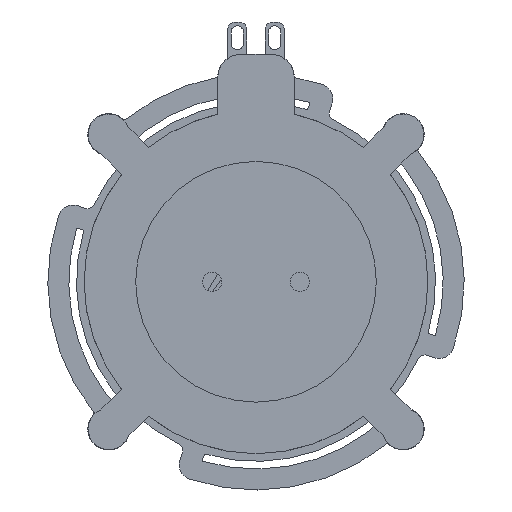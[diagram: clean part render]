
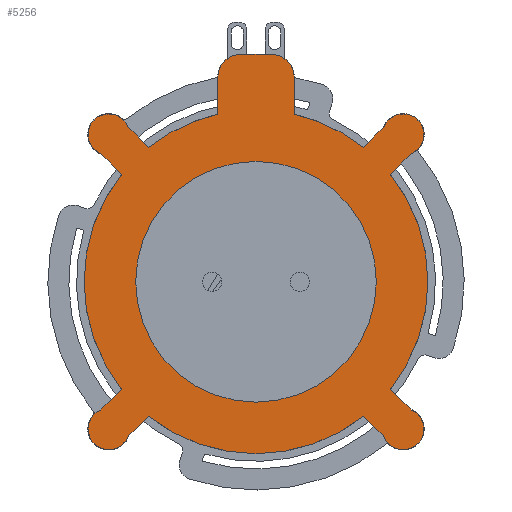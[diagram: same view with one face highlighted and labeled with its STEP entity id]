
A CAD part, front view. The second image highlights one B-rep face of the part: STEP entity #5256.
In plain terms, the highlighted planar face has unit normal (0, -1, 0).
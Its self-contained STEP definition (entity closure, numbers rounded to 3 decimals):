
#41=FACE_BOUND('',#714,.T.);
#166=PLANE('',#5676);
#426=FACE_OUTER_BOUND('',#713,.T.);
#713=EDGE_LOOP('',(#4458,#4459,#4460,#4461,#4462,#4463,#4464,#4465,#4466,
#4467,#4468,#4469,#4470,#4471,#4472,#4473,#4474,#4475,#4476,#4477,#4478,
#4479,#4480,#4481,#4482));
#714=EDGE_LOOP('',(#4483));
#873=CIRCLE('',#5488,2.7);
#878=CIRCLE('',#5498,2.7);
#889=CIRCLE('',#5523,3.);
#949=CIRCLE('',#5677,22.5);
#950=CIRCLE('',#5678,22.5);
#951=CIRCLE('',#5679,22.5);
#952=CIRCLE('',#5680,3.);
#953=CIRCLE('',#5681,22.5);
#954=CIRCLE('',#5682,2.7);
#955=CIRCLE('',#5683,2.7);
#956=CIRCLE('',#5684,22.5);
#957=CIRCLE('',#5685,22.5);
#958=CIRCLE('',#5686,2.7);
#959=CIRCLE('',#5687,2.7);
#960=CIRCLE('',#5688,15.75);
#1214=LINE('',#14122,#1638);
#1218=LINE('',#14131,#1642);
#1290=LINE('',#14415,#1714);
#1292=LINE('',#14419,#1716);
#1294=LINE('',#14425,#1718);
#1510=LINE('',#15018,#1934);
#1511=LINE('',#15022,#1935);
#1512=LINE('',#15026,#1936);
#1513=LINE('',#15032,#1937);
#1514=LINE('',#15038,#1938);
#1515=LINE('',#15043,#1939);
#1638=VECTOR('',#5982,11.815);
#1642=VECTOR('',#5988,10.68);
#1714=VECTOR('',#6274,10.68);
#1716=VECTOR('',#6278,10.68);
#1718=VECTOR('',#6282,10.68);
#1934=VECTOR('',#6870,4.);
#1935=VECTOR('',#6873,11.815);
#1936=VECTOR('',#6876,10.68);
#1937=VECTOR('',#6881,10.68);
#1938=VECTOR('',#6886,10.68);
#1939=VECTOR('',#6891,10.68);
#2148=VERTEX_POINT('',#14115);
#2151=VERTEX_POINT('',#14120);
#2152=VERTEX_POINT('',#14124);
#2155=VERTEX_POINT('',#14129);
#2256=VERTEX_POINT('',#14401);
#2257=VERTEX_POINT('',#14403);
#2260=VERTEX_POINT('',#14413);
#2261=VERTEX_POINT('',#14417);
#2263=VERTEX_POINT('',#14422);
#2264=VERTEX_POINT('',#14424);
#2291=VERTEX_POINT('',#14509);
#2454=VERTEX_POINT('',#15013);
#2455=VERTEX_POINT('',#15017);
#2456=VERTEX_POINT('',#15019);
#2457=VERTEX_POINT('',#15021);
#2458=VERTEX_POINT('',#15023);
#2459=VERTEX_POINT('',#15025);
#2460=VERTEX_POINT('',#15027);
#2461=VERTEX_POINT('',#15029);
#2462=VERTEX_POINT('',#15031);
#2463=VERTEX_POINT('',#15033);
#2464=VERTEX_POINT('',#15035);
#2465=VERTEX_POINT('',#15037);
#2466=VERTEX_POINT('',#15039);
#2467=VERTEX_POINT('',#15041);
#2468=VERTEX_POINT('',#15044);
#2743=EDGE_CURVE('',#2151,#2148,#1214,.T.);
#2747=EDGE_CURVE('',#2155,#2152,#1218,.T.);
#2879=EDGE_CURVE('',#2256,#2257,#873,.T.);
#2885=EDGE_CURVE('',#2260,#2256,#1290,.T.);
#2887=EDGE_CURVE('',#2257,#2261,#1292,.T.);
#2889=EDGE_CURVE('',#2263,#2264,#1294,.T.);
#2896=EDGE_CURVE('',#2264,#2155,#878,.T.);
#2933=EDGE_CURVE('',#2291,#2151,#889,.T.);
#3179=EDGE_CURVE('',#2152,#2454,#949,.T.);
#3180=EDGE_CURVE('',#2261,#2263,#950,.T.);
#3181=EDGE_CURVE('',#2148,#2260,#951,.T.);
#3182=EDGE_CURVE('',#2455,#2291,#1510,.T.);
#3183=EDGE_CURVE('',#2456,#2455,#952,.T.);
#3184=EDGE_CURVE('',#2457,#2456,#1511,.T.);
#3185=EDGE_CURVE('',#2458,#2457,#953,.T.);
#3186=EDGE_CURVE('',#2459,#2458,#1512,.T.);
#3187=EDGE_CURVE('',#2460,#2459,#954,.T.);
#3188=EDGE_CURVE('',#2461,#2460,#955,.T.);
#3189=EDGE_CURVE('',#2462,#2461,#1513,.T.);
#3190=EDGE_CURVE('',#2463,#2462,#956,.T.);
#3191=EDGE_CURVE('',#2464,#2463,#957,.T.);
#3192=EDGE_CURVE('',#2465,#2464,#1514,.T.);
#3193=EDGE_CURVE('',#2466,#2465,#958,.T.);
#3194=EDGE_CURVE('',#2467,#2466,#959,.T.);
#3195=EDGE_CURVE('',#2454,#2467,#1515,.T.);
#3196=EDGE_CURVE('',#2468,#2468,#960,.T.);
#4458=ORIENTED_EDGE('',*,*,#3179,.F.);
#4459=ORIENTED_EDGE('',*,*,#2747,.F.);
#4460=ORIENTED_EDGE('',*,*,#2896,.F.);
#4461=ORIENTED_EDGE('',*,*,#2889,.F.);
#4462=ORIENTED_EDGE('',*,*,#3180,.F.);
#4463=ORIENTED_EDGE('',*,*,#2887,.F.);
#4464=ORIENTED_EDGE('',*,*,#2879,.F.);
#4465=ORIENTED_EDGE('',*,*,#2885,.F.);
#4466=ORIENTED_EDGE('',*,*,#3181,.F.);
#4467=ORIENTED_EDGE('',*,*,#2743,.F.);
#4468=ORIENTED_EDGE('',*,*,#2933,.F.);
#4469=ORIENTED_EDGE('',*,*,#3182,.F.);
#4470=ORIENTED_EDGE('',*,*,#3183,.F.);
#4471=ORIENTED_EDGE('',*,*,#3184,.F.);
#4472=ORIENTED_EDGE('',*,*,#3185,.F.);
#4473=ORIENTED_EDGE('',*,*,#3186,.F.);
#4474=ORIENTED_EDGE('',*,*,#3187,.F.);
#4475=ORIENTED_EDGE('',*,*,#3188,.F.);
#4476=ORIENTED_EDGE('',*,*,#3189,.F.);
#4477=ORIENTED_EDGE('',*,*,#3190,.F.);
#4478=ORIENTED_EDGE('',*,*,#3191,.F.);
#4479=ORIENTED_EDGE('',*,*,#3192,.F.);
#4480=ORIENTED_EDGE('',*,*,#3193,.F.);
#4481=ORIENTED_EDGE('',*,*,#3194,.F.);
#4482=ORIENTED_EDGE('',*,*,#3195,.F.);
#4483=ORIENTED_EDGE('',*,*,#3196,.F.);
#5256=ADVANCED_FACE('',(#426,#41),#166,.T.);
#5488=AXIS2_PLACEMENT_3D('',#14404,#6262,#6263);
#5498=AXIS2_PLACEMENT_3D('',#14436,#6294,#6295);
#5523=AXIS2_PLACEMENT_3D('',#14511,#6370,#6371);
#5676=AXIS2_PLACEMENT_3D('',#15012,#6862,#6863);
#5677=AXIS2_PLACEMENT_3D('',#15014,#6864,#6865);
#5678=AXIS2_PLACEMENT_3D('',#15015,#6866,#6867);
#5679=AXIS2_PLACEMENT_3D('',#15016,#6868,#6869);
#5680=AXIS2_PLACEMENT_3D('',#15020,#6871,#6872);
#5681=AXIS2_PLACEMENT_3D('',#15024,#6874,#6875);
#5682=AXIS2_PLACEMENT_3D('',#15028,#6877,#6878);
#5683=AXIS2_PLACEMENT_3D('',#15030,#6879,#6880);
#5684=AXIS2_PLACEMENT_3D('',#15034,#6882,#6883);
#5685=AXIS2_PLACEMENT_3D('',#15036,#6884,#6885);
#5686=AXIS2_PLACEMENT_3D('',#15040,#6887,#6888);
#5687=AXIS2_PLACEMENT_3D('',#15042,#6889,#6890);
#5688=AXIS2_PLACEMENT_3D('',#15045,#6892,#6893);
#5982=DIRECTION('',(0.,0.,-1.));
#5988=DIRECTION('',(-0.707,0.,0.707));
#6262=DIRECTION('center_axis',(0.,1.,0.));
#6263=DIRECTION('ref_axis',(1.,0.,0.));
#6274=DIRECTION('',(0.707,0.,0.707));
#6278=DIRECTION('',(-0.707,0.,-0.707));
#6282=DIRECTION('',(0.707,0.,-0.707));
#6294=DIRECTION('center_axis',(0.,1.,0.));
#6295=DIRECTION('ref_axis',(1.,0.,0.));
#6370=DIRECTION('center_axis',(0.,1.,0.));
#6371=DIRECTION('ref_axis',(0.,0.,1.));
#6862=DIRECTION('center_axis',(0.,-1.,0.));
#6863=DIRECTION('ref_axis',(-1.,0.,0.));
#6864=DIRECTION('center_axis',(0.,1.,0.));
#6865=DIRECTION('ref_axis',(-0.624,0.,-0.781));
#6866=DIRECTION('center_axis',(0.,1.,0.));
#6867=DIRECTION('ref_axis',(0.781,0.,-0.624));
#6868=DIRECTION('center_axis',(0.,1.,0.));
#6869=DIRECTION('ref_axis',(0.624,0.,0.781));
#6870=DIRECTION('',(1.,0.,0.));
#6871=DIRECTION('center_axis',(0.,1.,0.));
#6872=DIRECTION('ref_axis',(-1.,0.,0.));
#6873=DIRECTION('',(0.,0.,1.));
#6874=DIRECTION('center_axis',(0.,1.,0.));
#6875=DIRECTION('ref_axis',(-0.222,0.,0.975));
#6876=DIRECTION('',(0.707,0.,-0.707));
#6877=DIRECTION('center_axis',(0.,1.,0.));
#6878=DIRECTION('ref_axis',(-1.,0.,0.));
#6879=DIRECTION('center_axis',(0.,1.,0.));
#6880=DIRECTION('ref_axis',(-1.,0.,0.));
#6881=DIRECTION('',(-0.707,0.,0.707));
#6882=DIRECTION('center_axis',(0.,1.,0.));
#6883=DIRECTION('ref_axis',(-0.781,0.,0.624));
#6884=DIRECTION('center_axis',(0.,1.,0.));
#6885=DIRECTION('ref_axis',(-0.781,0.,0.624));
#6886=DIRECTION('',(0.707,0.,0.707));
#6887=DIRECTION('center_axis',(0.,1.,0.));
#6888=DIRECTION('ref_axis',(-1.,0.,0.));
#6889=DIRECTION('center_axis',(0.,1.,0.));
#6890=DIRECTION('ref_axis',(-1.,0.,0.));
#6891=DIRECTION('',(-0.707,0.,-0.707));
#6892=DIRECTION('center_axis',(0.,-1.,0.));
#6893=DIRECTION('ref_axis',(1.,0.,0.));
#14115=CARTESIAN_POINT('',(5.,-17.5,21.937));
#14120=CARTESIAN_POINT('',(5.,-17.5,26.75));
#14122=CARTESIAN_POINT('',(5.,-17.5,26.75));
#14124=CARTESIAN_POINT('',(14.044,-17.5,-17.579));
#14129=CARTESIAN_POINT('',(16.78,-17.5,-20.315));
#14131=CARTESIAN_POINT('',(16.78,-17.5,-20.315));
#14401=CARTESIAN_POINT('',(16.78,-17.5,20.315));
#14403=CARTESIAN_POINT('',(20.315,-17.5,16.78));
#14404=CARTESIAN_POINT('Origin',(19.269,-17.5,19.269));
#14413=CARTESIAN_POINT('',(14.044,-17.5,17.579));
#14415=CARTESIAN_POINT('',(9.228,-17.5,12.764));
#14417=CARTESIAN_POINT('',(17.579,-17.5,14.044));
#14419=CARTESIAN_POINT('',(20.315,-17.5,16.78));
#14422=CARTESIAN_POINT('',(17.579,-17.5,-14.044));
#14424=CARTESIAN_POINT('',(20.315,-17.5,-16.78));
#14425=CARTESIAN_POINT('',(12.764,-17.5,-9.228));
#14436=CARTESIAN_POINT('Origin',(19.269,-17.5,-19.269));
#14509=CARTESIAN_POINT('',(2.,-17.5,29.75));
#14511=CARTESIAN_POINT('Origin',(2.,-17.5,26.75));
#15012=CARTESIAN_POINT('Origin',(0.,-17.5,0.));
#15013=CARTESIAN_POINT('',(-14.044,-17.5,-17.579));
#15014=CARTESIAN_POINT('Origin',(0.,-17.5,0.));
#15015=CARTESIAN_POINT('Origin',(0.,-17.5,0.));
#15016=CARTESIAN_POINT('Origin',(0.,-17.5,0.));
#15017=CARTESIAN_POINT('',(-2.,-17.5,29.75));
#15018=CARTESIAN_POINT('',(-2.,-17.5,29.75));
#15019=CARTESIAN_POINT('',(-5.,-17.5,26.75));
#15020=CARTESIAN_POINT('Origin',(-2.,-17.5,26.75));
#15021=CARTESIAN_POINT('',(-5.,-17.5,21.937));
#15022=CARTESIAN_POINT('',(-5.,-17.5,14.935));
#15023=CARTESIAN_POINT('',(-14.044,-17.5,17.579));
#15024=CARTESIAN_POINT('Origin',(0.,-17.5,0.));
#15025=CARTESIAN_POINT('',(-16.78,-17.5,20.315));
#15026=CARTESIAN_POINT('',(-16.78,-17.5,20.315));
#15027=CARTESIAN_POINT('',(-21.969,-17.5,19.269));
#15028=CARTESIAN_POINT('Origin',(-19.269,-17.5,19.269));
#15029=CARTESIAN_POINT('',(-20.315,-17.5,16.78));
#15030=CARTESIAN_POINT('Origin',(-19.269,-17.5,19.269));
#15031=CARTESIAN_POINT('',(-17.579,-17.5,14.044));
#15032=CARTESIAN_POINT('',(-12.764,-17.5,9.228));
#15033=CARTESIAN_POINT('',(-22.5,-17.5,0.));
#15034=CARTESIAN_POINT('Origin',(0.,-17.5,0.));
#15035=CARTESIAN_POINT('',(-17.579,-17.5,-14.044));
#15036=CARTESIAN_POINT('Origin',(0.,-17.5,0.));
#15037=CARTESIAN_POINT('',(-20.315,-17.5,-16.78));
#15038=CARTESIAN_POINT('',(-20.315,-17.5,-16.78));
#15039=CARTESIAN_POINT('',(-21.969,-17.5,-19.269));
#15040=CARTESIAN_POINT('Origin',(-19.269,-17.5,-19.269));
#15041=CARTESIAN_POINT('',(-16.78,-17.5,-20.315));
#15042=CARTESIAN_POINT('Origin',(-19.269,-17.5,-19.269));
#15043=CARTESIAN_POINT('',(-9.228,-17.5,-12.764));
#15044=CARTESIAN_POINT('',(-15.75,-17.5,0.));
#15045=CARTESIAN_POINT('Origin',(0.,-17.5,0.));
